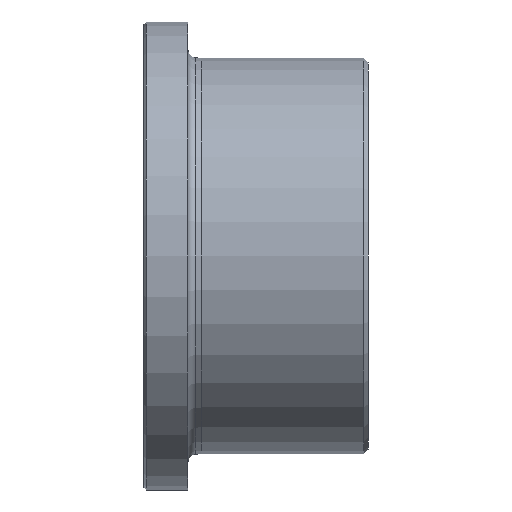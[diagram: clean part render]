
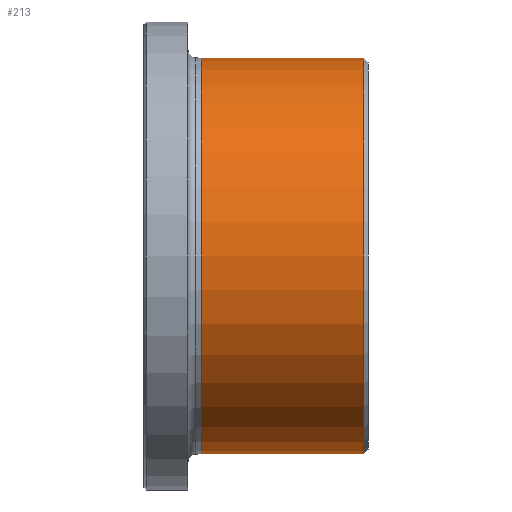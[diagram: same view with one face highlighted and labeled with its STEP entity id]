
A CAD part, front view. The second image highlights one B-rep face of the part: STEP entity #213.
In plain terms, the highlighted cylindrical face has radius 90 mm (diameter 180 mm), a full revolution.
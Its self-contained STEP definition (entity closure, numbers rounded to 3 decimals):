
#30=CYLINDRICAL_SURFACE('',#251,90.);
#39=ORIENTED_EDGE('',*,*,#77,.T.);
#40=ORIENTED_EDGE('',*,*,#78,.F.);
#77=EDGE_CURVE('',#96,#96,#115,.T.);
#78=EDGE_CURVE('',#97,#97,#116,.T.);
#96=VERTEX_POINT('',#376);
#97=VERTEX_POINT('',#378);
#115=CIRCLE('',#252,90.);
#116=CIRCLE('',#253,90.);
#134=EDGE_LOOP('',(#39));
#135=EDGE_LOOP('',(#40));
#172=FACE_BOUND('',#134,.T.);
#173=FACE_BOUND('',#135,.T.);
#213=ADVANCED_FACE('',(#172,#173),#30,.T.);
#251=AXIS2_PLACEMENT_3D('',#374,#300,#301);
#252=AXIS2_PLACEMENT_3D('',#375,#302,#303);
#253=AXIS2_PLACEMENT_3D('',#377,#304,#305);
#300=DIRECTION('',(-1.,0.,0.));
#301=DIRECTION('',(0.,0.,1.));
#302=DIRECTION('',(-1.,0.,0.));
#303=DIRECTION('',(0.,0.,1.));
#304=DIRECTION('',(-1.,0.,0.));
#305=DIRECTION('',(0.,0.,1.));
#374=CARTESIAN_POINT('',(60.,0.,0.));
#375=CARTESIAN_POINT('',(100.,0.,0.));
#376=CARTESIAN_POINT('',(100.,0.,90.));
#377=CARTESIAN_POINT('',(26.,0.,0.));
#378=CARTESIAN_POINT('',(26.,0.,90.));
